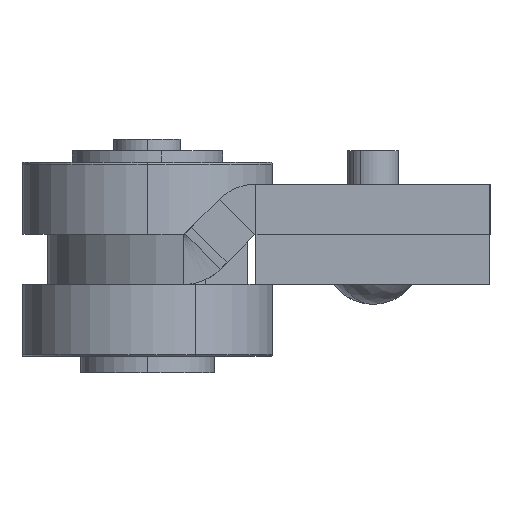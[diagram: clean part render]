
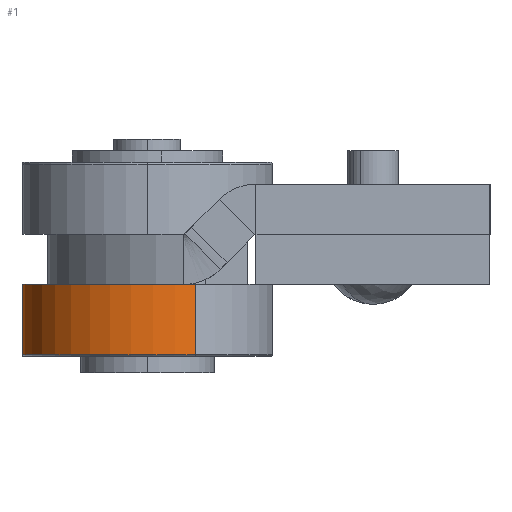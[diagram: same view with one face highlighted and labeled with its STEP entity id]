
A CAD part, left-side view. The second image highlights one B-rep face of the part: STEP entity #1.
In plain terms, the highlighted cylindrical face has radius 7.5 mm (diameter 15 mm), a partial arc.
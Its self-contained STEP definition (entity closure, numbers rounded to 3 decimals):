
#1 = ADVANCED_FACE ( 'NONE', ( #1545 ), #636, .T. ) ;
#60 = CARTESIAN_POINT ( 'NONE',  ( 7.5, 0., 0. ) ) ;
#288 = DIRECTION ( 'NONE',  ( 1., 0., 0. ) ) ;
#317 = DIRECTION ( 'NONE',  ( 0., 0., -1. ) ) ;
#408 = ORIENTED_EDGE ( 'NONE', *, *, #1896, .T. ) ;
#415 = DIRECTION ( 'NONE',  ( 0., 0., -1. ) ) ;
#476 = VERTEX_POINT ( 'NONE', #1989 ) ;
#535 = CARTESIAN_POINT ( 'NONE',  ( -7.5, 0., 4.3 ) ) ;
#636 = CYLINDRICAL_SURFACE ( 'NONE', #1812, 7.5 ) ;
#654 = EDGE_CURVE ( 'NONE', #1481, #1484, #1109, .T. ) ;
#939 = CARTESIAN_POINT ( 'NONE',  ( 0., 0., 4.2 ) ) ;
#1042 = DIRECTION ( 'NONE',  ( 0., 0., -1. ) ) ;
#1051 = ORIENTED_EDGE ( 'NONE', *, *, #654, .T. ) ;
#1109 = CIRCLE ( 'NONE', #2821, 7.5 ) ;
#1300 = LINE ( 'NONE', #2409, #1304 ) ;
#1304 = VECTOR ( 'NONE', #1042, 1000. ) ;
#1481 = VERTEX_POINT ( 'NONE', #2325 ) ;
#1484 = VERTEX_POINT ( 'NONE', #60 ) ;
#1545 = FACE_OUTER_BOUND ( 'NONE', #2178, .T. ) ;
#1629 = DIRECTION ( 'NONE',  ( 1., 0., 0. ) ) ;
#1657 = ORIENTED_EDGE ( 'NONE', *, *, #1905, .T. ) ;
#1666 = AXIS2_PLACEMENT_3D ( 'NONE', #939, #2551, #288 ) ;
#1812 = AXIS2_PLACEMENT_3D ( 'NONE', #2258, #415, #2238 ) ;
#1821 = VERTEX_POINT ( 'NONE', #2714 ) ;
#1867 = LINE ( 'NONE', #535, #1950 ) ;
#1896 = EDGE_CURVE ( 'NONE', #1821, #1481, #1867, .T. ) ;
#1905 = EDGE_CURVE ( 'NONE', #476, #1821, #2813, .T. ) ;
#1950 = VECTOR ( 'NONE', #317, 1000. ) ;
#1989 = CARTESIAN_POINT ( 'NONE',  ( 7.5, 0., 4.2 ) ) ;
#2178 = EDGE_LOOP ( 'NONE', ( #2195, #1657, #408, #1051 ) ) ;
#2195 = ORIENTED_EDGE ( 'NONE', *, *, #2339, .F. ) ;
#2238 = DIRECTION ( 'NONE',  ( -1., 0., 0. ) ) ;
#2258 = CARTESIAN_POINT ( 'NONE',  ( 0., 0., 4.3 ) ) ;
#2297 = CARTESIAN_POINT ( 'NONE',  ( 0., 0., 0. ) ) ;
#2325 = CARTESIAN_POINT ( 'NONE',  ( -7.5, 0., 0. ) ) ;
#2339 = EDGE_CURVE ( 'NONE', #476, #1484, #1300, .T. ) ;
#2409 = CARTESIAN_POINT ( 'NONE',  ( 7.5, 0., 4.3 ) ) ;
#2551 = DIRECTION ( 'NONE',  ( 0., 0., -1. ) ) ;
#2714 = CARTESIAN_POINT ( 'NONE',  ( -7.5, 0., 4.2 ) ) ;
#2773 = DIRECTION ( 'NONE',  ( 0., 0., 1. ) ) ;
#2813 = CIRCLE ( 'NONE', #1666, 7.5 ) ;
#2821 = AXIS2_PLACEMENT_3D ( 'NONE', #2297, #2773, #1629 ) ;
